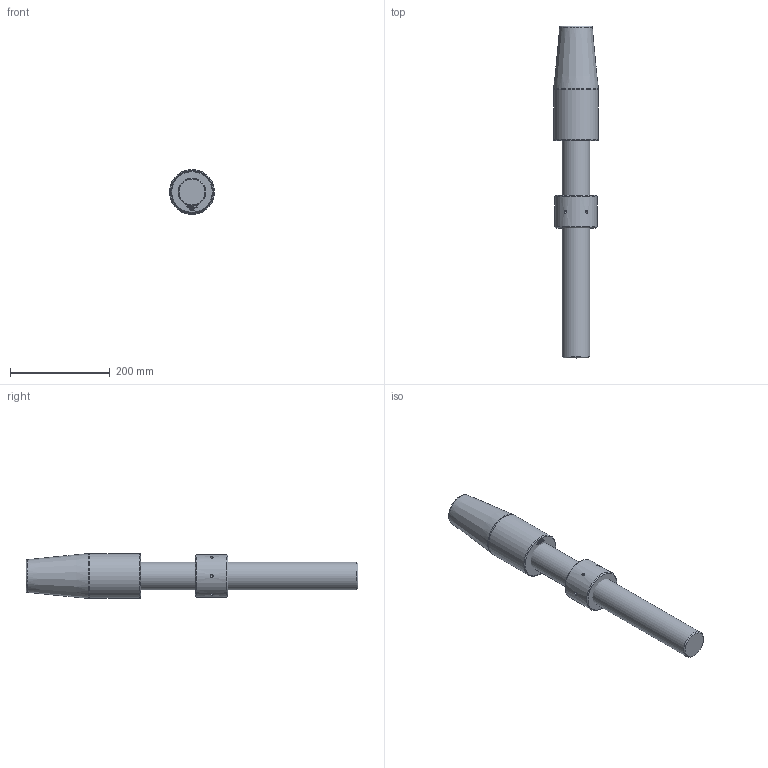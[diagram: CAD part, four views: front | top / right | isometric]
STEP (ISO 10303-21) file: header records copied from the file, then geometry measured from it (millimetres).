
FILE_DESCRIPTION(/* description */ (''),/* implementation_level */ '2;1');
FILE_NAME(/* name */ 'C:\Users\ranca\Desktop\CYM\ARRANGEMENT\CYM028 52 061 0.stp',/* time_stamp */ '2021-04-21T19:45:40+02:00',/* author */ ('ranca'),/* organization */ (''),/* preprocessor_version */ 'ST-DEVELOPER v16.13',/* originating_system */ 'Autodesk Inventor 2018',/* authorisation */ '');
FILE_SCHEMA (('AUTOMOTIVE_DESIGN { 1 0 10303 214 3 1 1 }'));
Length unit declared in the file: millimetre
Products named in the file (4): CYB012-52-061-0; CYM012-52-061-0_ROD; CYC028 52 065 0_CYL SOK_RH; CYM028-41-051-0
Assembly tree (3 placements, depth 2):
  CYB012-52-061-0
    CYM012-52-061-0_ROD
    CYC028 52 065 0_CYL SOK_RH
    CYM028-41-051-0
Bounding box: 90 x 664 x 90 mm (x, y, z)
Volume: 2851715 mm3; surface area: 190466.8 mm2
Topology: 3 solids, 3 shells, 538 faces, 1444 edges, 960 vertices
Faces by surface type: bspline 302, plane 214, cone 11, cylinder 9, torus 2
Full cylindrical faces by diameter (mm): 6 x6, 56 x1, 85 x1, 90 x1
Entity records: 18451 total; most frequent: CARTESIAN_POINT 7065, ORIENTED_EDGE 2830, EDGE_CURVE 1415, DIRECTION 1308, VERTEX_POINT 954, LINE 778, VECTOR 778, B_SPLINE_CURVE_WITH_KNOTS 614
